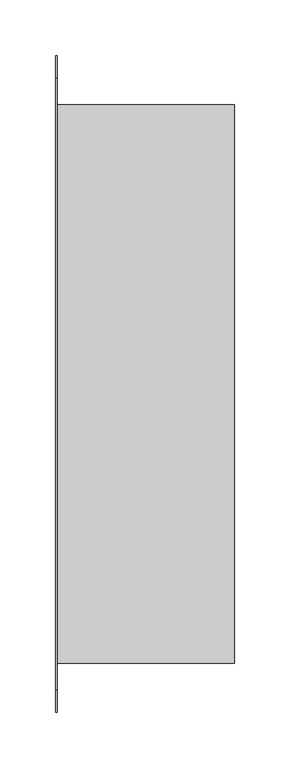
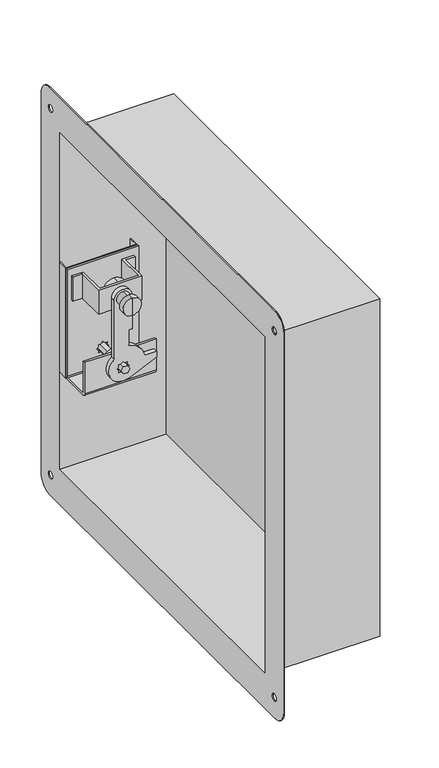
"""IFC4 building model written with IfcOpenShell, lengths in millimetres: damper geometry, СВ_КлапанПротивопожарный_КДМ-2М-3_НЗ_СтеновойПрямоугольный_СВОК : КДМ-2М_Привод ЭМ."""

from ifc_helpers import new_model, si_unit, frame, origin, place, context, project, spatial, polyline, circle_curve, outline, extrude, source, transform, mapped, element, save
from ifc_brep_helpers import plane_surface, cylinder_surface, revolved_surface, advanced_brep


def damper_a9b1c7ca(model_context):
    return source(origin(), model_context, "Body", "SolidModel", [
        extrude(outline(polyline([(-78.8298911, 248.8), (-78.8298911, 235.0), (18.8, 235.0), (18.8, 248.8), (20.0, 248.8), (20.0, 233.8), (-80.0298911, 233.8), (-80.0298911, 248.8), (-78.8298911, 248.8)])), frame((0.0, 0.0, -105.0), z_axis=(0.0, 0.0, 1.0), x_axis=(1.0, 0.0, 0.0)), (0.0, 0.0, 1.0), 162.5),
        advanced_brep(
        [(-30.0, 159.8, 40.8717586), (-30.0, 159.8, 15.1282414), (-30.0, 159.8, 28.0), (-30.0, 167.677025, 40.8717586), (-30.0, 167.677025, 15.1282414), (-30.0, 167.677025, 37.0972194), (-30.0, 167.677025, 18.9027806), (-30.0, 181.8, 37.0972194), (-30.0, 181.8, 18.9027806), (-30.0, 181.8, 28.0)],
        [
            (0, 1, circle_curve(frame((-30.0, 159.8, 28.0), z_axis=(0.0, -1.0, 0.0), x_axis=(0.0, 0.0, -1.0)), 12.8717586)),
            (1, 2),
            (2, 0),
            (1, 0, circle_curve(frame((-30.0, 159.8, 28.0), z_axis=(0.0, -1.0, 0.0), x_axis=(0.0, 0.0, -1.0)), 12.8717586)),
            (3, 4, circle_curve(frame((-30.0, 167.677025, 28.0), z_axis=(0.0, -1.0, 0.0), x_axis=(0.0, 0.0, -1.0)), 12.8717586)),
            (4, 1),
            (0, 3),
            (4, 3, circle_curve(frame((-30.0, 167.677025, 28.0), z_axis=(0.0, -1.0, 0.0), x_axis=(0.0, 0.0, -1.0)), 12.8717586)),
            (5, 6, circle_curve(frame((-30.0, 167.677025, 28.0), z_axis=(0.0, -1.0, 0.0), x_axis=(0.0, 0.0, -1.0)), 9.0972194)),
            (6, 4),
            (3, 5),
            (6, 5, circle_curve(frame((-30.0, 167.677025, 28.0), z_axis=(0.0, -1.0, 0.0), x_axis=(0.0, 0.0, -1.0)), 9.0972194)),
            (7, 8, circle_curve(frame((-30.0, 181.8, 28.0), z_axis=(0.0, -1.0, 0.0), x_axis=(0.0, 0.0, -1.0)), 9.0972194)),
            (8, 6),
            (5, 7),
            (8, 7, circle_curve(frame((-30.0, 181.8, 28.0), z_axis=(0.0, -1.0, 0.0), x_axis=(0.0, 0.0, -1.0)), 9.0972194)),
            (9, 8),
            (7, 9),
        ],
        [
            plane_surface(frame((-30.0, 159.8, 28.0), z_axis=(0.0, -1.0, 0.0), x_axis=(0.0, 0.0, -1.0))),
            cylinder_surface(frame((-30.0, 181.8, 28.0), z_axis=(0.0, 1.0, 0.0), x_axis=(0.0, 0.0, -1.0)), 12.8717586),
            plane_surface(frame((-30.0, 167.677025, 28.0), z_axis=(0.0, 1.0, 0.0), x_axis=(0.0, 0.0, -1.0))),
            cylinder_surface(frame((-30.0, 181.8, 28.0), z_axis=(0.0, 1.0, 0.0), x_axis=(0.0, 0.0, -1.0)), 9.0972194),
            plane_surface(frame((-30.0, 181.8, 28.0), z_axis=(0.0, 1.0, 0.0), x_axis=(0.0, 0.0, -1.0))),
        ],
        [
            (0, [[1, 2, 3]]),
            (0, [[4, -3, -2]]),
            (1, [[5, 6, -1, 7]]),
            (1, [[8, -7, -4, -6]]),
            (2, [[9, 10, -5, 11]]),
            (2, [[12, -11, -8, -10]]),
            (3, [[13, 14, -9, 15]]),
            (3, [[16, -15, -12, -14]]),
            (4, [[17, -13, 18]]),
            (4, [[-18, -16, -17]]),
        ],
    ),
        advanced_brep(
        [(-60.37371, 188.3367477, 45.900028), (-0.37371, 188.3367477, 45.900028), (-0.37371, 227.8, 45.900028), (13.1888336, 227.8, 45.900028), (13.1888336, 230.8, 45.900028), (-3.37371, 230.8, 45.900028), (-3.37371, 191.3367477, 45.900028), (-30.37371, 191.3367477, 45.900028), (-57.37371, 191.3367477, 45.900028), (-57.37371, 230.8, 45.900028), (-73.9362537, 230.8, 45.900028), (-73.9362537, 227.8, 45.900028), (-60.37371, 227.8, 45.900028), (-60.37371, 188.3367477, 10.2906263), (-60.37371, 227.8, 10.2906263), (-73.9362537, 227.8, 10.2906263), (-73.9362537, 230.8, 10.2906263), (-57.37371, 230.8, 10.2906263), (-57.37371, 191.3367477, 10.2906263), (-30.37371, 191.3367477, 10.2906263), (-3.37371, 191.3367477, 10.2906263), (-3.37371, 230.8, 10.2906263), (13.1888336, 230.8, 10.2906263), (13.1888336, 227.8, 10.2906263), (-0.37371, 227.8, 10.2906263), (-0.37371, 188.3367477, 10.2906263), (-17.5531764, 188.3367477, 10.2906263), (-30.37371, 188.3367477, 10.2906263), (-42.4468236, 188.3367477, 10.2906263), (-30.37371, 191.3367477, 12.0153496), (-30.0, 191.3367477, 12.0109817), (-30.0, 191.3367477, 43.9890183), (-30.37371, 191.3367477, 43.9846504), (-42.4468236, 181.8, 28.0), (-42.4468236, 181.8, -59.345078), (-21.6781206, 181.8, -93.1864324), (16.7904973, 181.8, -75.5836838), (16.7904973, 181.8, -67.6282215), (0.2857987, 181.8, -67.6282215), (-22.3466574, 181.8, -44.7841255), (-22.3466574, 181.8, -22.0), (-17.5531764, 181.8, -22.0), (-17.5531764, 181.8, 28.0), (-38.4852814, 181.8, -75.0), (-35.9954463, 181.8, -72.5101649), (-35.9954463, 181.8, -69.0045537), (-32.4898351, 181.8, -69.0045537), (-30.0, 181.8, -66.5147186), (-27.5101649, 181.8, -69.0045537), (-24.0045537, 181.8, -69.0045537), (-24.0045537, 181.8, -72.5101649), (-21.5147186, 181.8, -75.0), (-24.0045537, 181.8, -77.4898351), (-24.0045537, 181.8, -80.9954463), (-27.5101649, 181.8, -80.9954463), (-30.0, 181.8, -83.4852814), (-32.4898351, 181.8, -80.9954463), (-35.9954463, 181.8, -80.9954463), (-35.9954463, 181.8, -77.4898351), (-17.5531764, 188.3367477, -22.0), (-22.3466574, 188.3367477, -22.0), (-22.3466574, 188.3367477, -44.7841255), (-6.6455014, 188.3367477, -54.3568384), (-42.4468236, 188.3367477, -54.3568384), (-17.5531764, 188.3367477, 28.0), (-42.4468236, 188.3367477, 28.0), (-42.4468236, 188.3367477, -59.345078), (-21.6781206, 188.3367477, -93.1864324), (16.7904973, 188.3367477, -75.5836838), (16.7904973, 188.3367477, -67.6282215), (0.2857987, 188.3367477, -67.6282215), (-30.0, 203.8, -90.9890183), (-30.0, 203.8, -59.0109817), (-35.9954463, 203.8, -72.5101649), (-38.4852814, 203.8, -75.0), (-35.9954463, 203.8, -77.4898351), (-35.9954463, 203.8, -80.9954463), (-32.4898351, 203.8, -80.9954463), (-30.0, 203.8, -83.4852814), (-27.5101649, 203.8, -80.9954463), (-24.0045537, 203.8, -80.9954463), (-24.0045537, 203.8, -77.4898351), (-21.5147186, 203.8, -75.0), (-24.0045537, 203.8, -72.5101649), (-24.0045537, 203.8, -69.0045537), (-27.5101649, 203.8, -69.0045537), (-30.0, 203.8, -66.5147186), (-32.4898351, 203.8, -69.0045537), (-35.9954463, 203.8, -69.0045537), (-30.0, 203.8, 12.0109817), (-30.0, 203.8, 43.9890183), (-30.0, 191.3367477, -59.0109817), (-30.0, 191.3367477, -90.9890183), (20.0, 233.8, -100.5), (20.0, 233.8, 57.5), (20.0, 230.8, 57.5), (20.0, 230.8, -100.5), (20.0, 229.3, -102.0), (20.0, 192.8662593, -102.0), (20.0, 191.3367477, -100.4704884), (20.0, 191.3367477, -54.3568384), (20.0, 188.3367477, -54.3568384), (20.0, 188.3367477, -100.4704884), (20.0, 192.8662593, -105.0), (20.0, 229.3, -105.0), (-80.0, 233.8, -100.5), (-80.0, 229.3, -105.0), (-80.0, 192.8662593, -105.0), (-80.0, 188.3367477, -100.4704884), (-80.0, 188.3367477, -54.3568384), (-80.0, 191.3367477, -54.3568384), (-80.0, 191.3367477, -100.4704884), (-80.0, 192.8662593, -102.0), (-80.0, 229.3, -102.0), (-80.0, 230.8, -100.5), (-80.0, 230.8, 57.5), (-80.0, 233.8, 57.5), (-35.9954463, 233.8, -72.5101649), (-38.4852814, 233.8, -75.0), (-35.9954463, 233.8, -77.4898351), (-35.9954463, 233.8, -80.9954463), (-32.4898351, 233.8, -80.9954463), (-30.0, 233.8, -83.4852814), (-27.5101649, 233.8, -80.9954463), (-24.0045537, 233.8, -80.9954463), (-24.0045537, 233.8, -77.4898351), (-21.5147186, 233.8, -75.0), (-24.0045537, 233.8, -72.5101649), (-24.0045537, 233.8, -69.0045537), (-27.5101649, 233.8, -69.0045537), (-30.0, 233.8, -66.5147186), (-32.4898351, 233.8, -69.0045537), (-35.9954463, 233.8, -69.0045537), (-38.4852814, 230.8, -75.0), (-35.9954463, 230.8, -72.5101649), (-35.9954463, 230.8, -69.0045537), (-32.4898351, 230.8, -69.0045537), (-30.0, 230.8, -66.5147186), (-27.5101649, 230.8, -69.0045537), (-24.0045537, 230.8, -69.0045537), (-24.0045537, 230.8, -72.5101649), (-21.5147186, 230.8, -75.0), (-24.0045537, 230.8, -77.4898351), (-24.0045537, 230.8, -80.9954463), (-27.5101649, 230.8, -80.9954463), (-30.0, 230.8, -83.4852814), (-32.4898351, 230.8, -80.9954463), (-35.9954463, 230.8, -80.9954463), (-35.9954463, 230.8, -77.4898351)],
        [
            (0, 1),
            (1, 2),
            (2, 3),
            (3, 4),
            (4, 5),
            (5, 6),
            (6, 7),
            (7, 8),
            (8, 9),
            (9, 10),
            (10, 11),
            (11, 12),
            (12, 0),
            (13, 14),
            (14, 15),
            (15, 16),
            (16, 17),
            (17, 18),
            (18, 19),
            (19, 20),
            (20, 21),
            (21, 22),
            (22, 23),
            (23, 24),
            (24, 25),
            (25, 26),
            (26, 27),
            (27, 28),
            (28, 13),
            (1, 25),
            (24, 2),
            (23, 3),
            (22, 4),
            (5, 21),
            (20, 6),
            (19, 29),
            (29, 30, circle_curve(frame((-30.0, 191.3367477, 28.0), z_axis=(0.0, -1.0, 0.0), x_axis=(0.0, 0.0, 1.0)), 15.9890183)),
            (30, 31, circle_curve(frame((-30.0, 191.3367477, 28.0), z_axis=(0.0, -1.0, 0.0), x_axis=(0.0, 0.0, 1.0)), 15.9890183)),
            (31, 32, circle_curve(frame((-30.0, 191.3367477, 28.0), z_axis=(0.0, -1.0, 0.0), x_axis=(0.0, 0.0, 1.0)), 15.9890183)),
            (32, 7),
            (32, 29, circle_curve(frame((-30.0, 191.3367477, 28.0), z_axis=(0.0, -1.0, 0.0), x_axis=(0.0, 0.0, 1.0)), 15.9890183)),
            (18, 8),
            (17, 9),
            (10, 16),
            (15, 11),
            (14, 12),
            (13, 0),
            (33, 34),
            (34, 35, circle_curve(frame((-30.0, 181.8, -75.0), z_axis=(0.0, -1.0, 0.0), x_axis=(0.0, 0.0, 1.0)), 20.0)),
            (35, 36),
            (36, 37),
            (37, 38),
            (38, 39, circle_curve(frame((-30.0, 181.8, -75.0), z_axis=(0.0, -1.0, 0.0), x_axis=(0.0, 0.0, 1.0)), 31.1700613)),
            (39, 40),
            (40, 41),
            (41, 42),
            (42, 33, circle_curve(frame((-30.0, 181.8, 28.0), z_axis=(0.0, -1.0, 0.0), x_axis=(0.0, 0.0, 1.0)), 12.4468236)),
            (43, 44),
            (44, 45),
            (45, 46),
            (46, 47),
            (47, 48),
            (48, 49),
            (49, 50),
            (50, 51),
            (51, 52),
            (52, 53),
            (53, 54),
            (54, 55),
            (55, 56),
            (56, 57),
            (57, 58),
            (58, 43),
            (59, 60),
            (60, 61),
            (61, 62, circle_curve(frame((-30.0, 188.3367477, -75.0), z_axis=(0.0, 1.0, 0.0), x_axis=(0.0, 0.0, 1.0)), 31.1700613)),
            (62, 63),
            (63, 28),
            (26, 59),
            (42, 64),
            (64, 65, circle_curve(frame((-30.0, 188.3367477, 28.0), z_axis=(0.0, -1.0, 0.0), x_axis=(0.0, 0.0, 1.0)), 12.4468236)),
            (65, 33),
            (34, 66),
            (66, 67, circle_curve(frame((-30.0, 188.3367477, -75.0), z_axis=(0.0, -1.0, 0.0), x_axis=(0.0, 0.0, 1.0)), 20.0)),
            (67, 35),
            (65, 28),
            (63, 66),
            (36, 68),
            (68, 69),
            (69, 37),
            (69, 70),
            (70, 38),
            (70, 62, circle_curve(frame((-30.0, 188.3367477, -75.0), z_axis=(0.0, -1.0, 0.0), x_axis=(0.0, 0.0, 1.0)), 31.1700613)),
            (61, 39),
            (60, 40),
            (59, 41),
            (26, 64),
            (71, 72, circle_curve(frame((-30.0, 203.8, -75.0), z_axis=(0.0, 1.0, 0.0), x_axis=(0.0, 0.0, 1.0)), 15.9890183)),
            (72, 71, circle_curve(frame((-30.0, 203.8, -75.0), z_axis=(0.0, 1.0, 0.0), x_axis=(0.0, 0.0, 1.0)), 15.9890183)),
            (73, 74),
            (74, 75),
            (75, 76),
            (76, 77),
            (77, 78),
            (78, 79),
            (79, 80),
            (80, 81),
            (81, 82),
            (82, 83),
            (83, 84),
            (84, 85),
            (85, 86),
            (86, 87),
            (87, 88),
            (88, 73),
            (89, 90, circle_curve(frame((-30.0, 203.8, 28.0), z_axis=(0.0, 1.0, 0.0), x_axis=(0.0, 0.0, 1.0)), 15.9890183)),
            (90, 89, circle_curve(frame((-30.0, 203.8, 28.0), z_axis=(0.0, 1.0, 0.0), x_axis=(0.0, 0.0, 1.0)), 15.9890183)),
            (72, 91),
            (91, 92, circle_curve(frame((-30.0, 191.3367477, -75.0), z_axis=(0.0, 1.0, 0.0), x_axis=(0.0, 0.0, 1.0)), 15.9890183)),
            (92, 71),
            (92, 91, circle_curve(frame((-30.0, 191.3367477, -75.0), z_axis=(0.0, 1.0, 0.0), x_axis=(0.0, 0.0, 1.0)), 15.9890183)),
            (90, 31),
            (30, 89),
            (93, 94),
            (94, 95),
            (95, 96),
            (96, 97, circle_curve(frame((20.0, 229.3, -100.5), z_axis=(-1.0, 0.0, 0.0), x_axis=(0.0, 0.0, 1.0)), 1.5)),
            (97, 98),
            (98, 99, circle_curve(frame((20.0, 192.8662593, -100.4704884), z_axis=(-1.0, 0.0, 0.0), x_axis=(0.0, 0.0, 1.0)), 1.5295116)),
            (99, 100),
            (100, 101),
            (101, 102),
            (102, 103, circle_curve(frame((20.0, 192.8662593, -100.4704884), z_axis=(1.0, 0.0, 0.0), x_axis=(0.0, 0.0, 1.0)), 4.5295116)),
            (103, 104),
            (104, 93, circle_curve(frame((20.0, 229.3, -100.5), z_axis=(1.0, 0.0, 0.0), x_axis=(0.0, 0.0, 1.0)), 4.5)),
            (105, 106, circle_curve(frame((-80.0, 229.3, -100.5), z_axis=(-1.0, 0.0, 0.0), x_axis=(0.0, 0.0, 1.0)), 4.5)),
            (106, 107),
            (107, 108, circle_curve(frame((-80.0, 192.8662593, -100.4704884), z_axis=(-1.0, 0.0, 0.0), x_axis=(0.0, 0.0, 1.0)), 4.5295116)),
            (108, 109),
            (109, 110),
            (110, 111),
            (111, 112, circle_curve(frame((-80.0, 192.8662593, -100.4704884), z_axis=(1.0, 0.0, 0.0), x_axis=(0.0, 0.0, 1.0)), 1.5295116)),
            (112, 113),
            (113, 114, circle_curve(frame((-80.0, 229.3, -100.5), z_axis=(1.0, 0.0, 0.0), x_axis=(0.0, 0.0, 1.0)), 1.5)),
            (114, 115),
            (115, 116),
            (116, 105),
            (93, 105),
            (116, 94),
            (117, 118),
            (118, 119),
            (119, 120),
            (120, 121),
            (121, 122),
            (122, 123),
            (123, 124),
            (124, 125),
            (125, 126),
            (126, 127),
            (127, 128),
            (128, 129),
            (129, 130),
            (130, 131),
            (131, 132),
            (132, 117),
            (115, 95),
            (114, 96),
            (133, 134),
            (134, 135),
            (135, 136),
            (136, 137),
            (137, 138),
            (138, 139),
            (139, 140),
            (140, 141),
            (141, 142),
            (142, 143),
            (143, 144),
            (144, 145),
            (145, 146),
            (146, 147),
            (147, 148),
            (148, 133),
            (113, 97),
            (112, 98),
            (111, 99),
            (110, 100),
            (109, 63),
            (62, 101),
            (68, 67),
            (108, 102),
            (107, 103),
            (106, 104),
            (73, 44),
            (43, 74),
            (117, 134),
            (133, 118),
            (58, 75),
            (148, 119),
            (57, 76),
            (147, 120),
            (56, 77),
            (146, 121),
            (55, 78),
            (145, 122),
            (54, 79),
            (144, 123),
            (53, 80),
            (143, 124),
            (52, 81),
            (142, 125),
            (51, 82),
            (141, 126),
            (50, 83),
            (140, 127),
            (49, 84),
            (139, 128),
            (48, 85),
            (138, 129),
            (47, 86),
            (137, 130),
            (46, 87),
            (136, 131),
            (45, 88),
            (135, 132),
        ],
        [
            plane_surface(frame((-60.37371, 188.3367477, 45.900028), z_axis=(0.0, 0.0, 1.0), x_axis=(1.0, 0.0, 0.0))),
            plane_surface(frame((-60.37371, 188.3367477, 10.2906263), z_axis=(0.0, 0.0, -1.0), x_axis=(-1.0, 0.0, 0.0))),
            plane_surface(frame((-0.37371, 188.3367477, 45.900028), z_axis=(1.0, 0.0, 0.0), x_axis=(0.0, 0.0, -1.0))),
            plane_surface(frame((-0.37371, 227.8, 45.900028), z_axis=(0.0, -1.0, 0.0), x_axis=(0.0, 0.0, -1.0))),
            plane_surface(frame((13.1888336, 227.8, 45.900028), z_axis=(1.0, 0.0, 0.0), x_axis=(0.0, 0.0, -1.0))),
            plane_surface(frame((-3.37371, 230.8, 45.900028), z_axis=(-1.0, 0.0, 0.0), x_axis=(0.0, 0.0, -1.0))),
            plane_surface(frame((-3.37371, 191.3367477, 45.900028), z_axis=(0.0, 1.0, 0.0), x_axis=(0.0, 0.0, -1.0))),
            plane_surface(frame((-30.37371, 191.3367477, 45.900028), z_axis=(0.0, 1.0, 0.0), x_axis=(0.0, 0.0, -1.0))),
            plane_surface(frame((-57.37371, 191.3367477, 45.900028), z_axis=(1.0, 0.0, 0.0), x_axis=(0.0, 0.0, -1.0))),
            plane_surface(frame((-73.9362537, 230.8, 45.900028), z_axis=(-1.0, 0.0, 0.0), x_axis=(0.0, 0.0, -1.0))),
            plane_surface(frame((-73.9362537, 227.8, 45.900028), z_axis=(0.0, -1.0, 0.0), x_axis=(0.0, 0.0, -1.0))),
            plane_surface(frame((-60.37371, 227.8, 45.900028), z_axis=(-1.0, 0.0, 0.0), x_axis=(0.0, 0.0, -1.0))),
            plane_surface(frame((-42.4468236, 181.8, 28.0), z_axis=(0.0, -1.0, 0.0), x_axis=(0.0, 0.0, -1.0))),
            plane_surface(frame((-42.4468236, 188.3367477, 28.0), z_axis=(0.0, 1.0, 0.0), x_axis=(0.0, 0.0, 1.0))),
            cylinder_surface(frame((-30.0, 188.3367477, 28.0), z_axis=(0.0, -1.0, 0.0), x_axis=(0.0, 0.0, 1.0)), 12.4468236),
            cylinder_surface(frame((-30.0, 188.3367477, -75.0), z_axis=(0.0, -1.0, 0.0), x_axis=(0.0, 0.0, 1.0)), 20.0),
            plane_surface(frame((-42.4468236, 181.8, 28.0), z_axis=(-1.0, 0.0, 0.0), x_axis=(0.0, 1.0, 0.0))),
            plane_surface(frame((16.7904973, 181.8, -75.5836838), z_axis=(1.0, 0.0, 0.0), x_axis=(0.0, 1.0, 0.0))),
            plane_surface(frame((16.7904973, 181.8, -67.6282215), z_axis=(0.0, 0.0, 1.0), x_axis=(0.0, 1.0, 0.0))),
            cylinder_surface(frame((-30.0, 188.3367477, -75.0), z_axis=(0.0, -1.0, 0.0), x_axis=(0.0, 0.0, 1.0)), 31.1700613),
            plane_surface(frame((-22.3466574, 181.8, -44.7841255), z_axis=(1.0, 0.0, 0.0), x_axis=(0.0, 1.0, 0.0))),
            plane_surface(frame((-22.3466574, 181.8, -22.0), z_axis=(0.0, 0.0, -1.0), x_axis=(0.0, 1.0, 0.0))),
            plane_surface(frame((-17.5531764, 181.8, -22.0), z_axis=(1.0, 0.0, 0.0), x_axis=(0.0, 1.0, 0.0))),
            plane_surface(frame((-30.0, 188.3367477, -59.0109817), z_axis=(0.0, -1.0, 0.0), x_axis=(-1.0, 0.0, 0.0))),
            plane_surface(frame((-30.0, 203.8, -59.0109817), z_axis=(0.0, 1.0, 0.0), x_axis=(1.0, 0.0, 0.0))),
            cylinder_surface(frame((-30.0, 203.8, -75.0), z_axis=(0.0, -1.0, 0.0), x_axis=(0.0, 0.0, 1.0)), 15.9890183),
            cylinder_surface(frame((-30.0, 248.8, 28.0), z_axis=(0.0, -1.0, 0.0), x_axis=(0.0, 0.0, 1.0)), 15.9890183),
            plane_surface(frame((20.0, 233.8, 57.5), z_axis=(1.0, 0.0, 0.0), x_axis=(0.0, 0.0, 1.0))),
            plane_surface(frame((-80.0, 233.8, 57.5), z_axis=(-1.0, 0.0, 0.0), x_axis=(0.0, 0.0, -1.0))),
            plane_surface(frame((20.0, 233.8, -100.5), z_axis=(0.0, 1.0, 0.0), x_axis=(-1.0, 0.0, 0.0))),
            plane_surface(frame((20.0, 233.8, 57.5), z_axis=(0.0, 0.0, 1.0), x_axis=(-1.0, 0.0, 0.0))),
            plane_surface(frame((20.0, 230.8, 57.5), z_axis=(0.0, -1.0, 0.0), x_axis=(-1.0, 0.0, 0.0))),
            revolved_surface(polyline([(-80.0, 229.3, -99.0), (20.0, 229.3, -99.0)]), (-80.0, 229.3, -100.5), (-1.0, 0.0, 0.0)),
            plane_surface(frame((20.0, 229.3, -102.0), z_axis=(0.0, 0.0, 1.0), x_axis=(-1.0, 0.0, 0.0))),
            revolved_surface(polyline([(-80.0, 192.8662593, -98.94097679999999), (20.0, 192.8662593, -98.94097679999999)]), (-80.0, 192.8662593, -100.4704884), (-1.0, 0.0, 0.0)),
            plane_surface(frame((20.0, 191.3367477, -100.4704884), z_axis=(0.0, 1.0, 0.0), x_axis=(-1.0, 0.0, 0.0))),
            plane_surface(frame((20.0, 191.3367477, -54.3568384), z_axis=(0.0, 0.0, 1.0), x_axis=(-1.0, 0.0, 0.0))),
            plane_surface(frame((20.0, 188.3367477, -54.3568384), z_axis=(0.0, -1.0, 0.0), x_axis=(-1.0, 0.0, 0.0))),
            cylinder_surface(frame((-80.0, 192.8662593, -100.4704884), z_axis=(1.0, 0.0, 0.0), x_axis=(0.0, 0.0, 1.0)), 4.5295116),
            plane_surface(frame((20.0, 192.8662593, -105.0), z_axis=(0.0, 0.0, -1.0), x_axis=(-1.0, 0.0, 0.0))),
            cylinder_surface(frame((-80.0, 229.3, -100.5), z_axis=(1.0, 0.0, 0.0), x_axis=(0.0, 0.0, 1.0)), 4.5),
            plane_surface(frame((-21.6781206, 181.8, -93.1864324), z_axis=(0.41609396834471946, 0.0, -0.909321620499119), x_axis=(0.0, 1.0, 0.0))),
            plane_surface(frame((-35.9954463, 175.8, -72.5101649), z_axis=(0.7071067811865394, 0.0, -0.7071067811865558), x_axis=(0.0, 1.0, 0.0))),
            plane_surface(frame((-38.4852814, 175.8, -75.0), z_axis=(0.7071067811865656, 0.0, 0.7071067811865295), x_axis=(0.0, 1.0, 0.0))),
            plane_surface(frame((-35.9954463, 175.8, -77.4898351), z_axis=(1.0, 0.0, 0.0), x_axis=(0.0, 1.0, 0.0))),
            plane_surface(frame((-35.9954463, 175.8, -80.9954463), z_axis=(0.0, 0.0, 1.0), x_axis=(0.0, 1.0, 0.0))),
            plane_surface(frame((-32.4898351, 175.8, -80.9954463), z_axis=(0.707106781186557, 0.0, 0.707106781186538), x_axis=(0.0, 1.0, 0.0))),
            plane_surface(frame((-30.0, 175.8, -83.4852814), z_axis=(-0.7071067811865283, 0.0, 0.7071067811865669), x_axis=(0.0, 1.0, 0.0))),
            plane_surface(frame((-27.5101649, 175.8, -80.9954463), z_axis=(0.0, 0.0, 1.0), x_axis=(0.0, 1.0, 0.0))),
            plane_surface(frame((-24.0045537, 175.8, -80.9954463), z_axis=(-1.0, 0.0, 0.0), x_axis=(0.0, 1.0, 0.0))),
            plane_surface(frame((-24.0045537, 175.8, -77.4898351), z_axis=(-0.7071067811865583, 0.0, 0.7071067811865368), x_axis=(0.0, 1.0, 0.0))),
            plane_surface(frame((-21.5147186, 175.8, -75.0), z_axis=(-0.7071067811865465, 0.0, -0.7071067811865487), x_axis=(0.0, 1.0, 0.0))),
            plane_surface(frame((-24.0045537, 175.8, -72.5101649), z_axis=(-1.0, 0.0, 0.0), x_axis=(0.0, 1.0, 0.0))),
            plane_surface(frame((-24.0045537, 175.8, -69.0045537), z_axis=(0.0, 0.0, -1.0), x_axis=(0.0, 1.0, 0.0))),
            plane_surface(frame((-27.5101649, 175.8, -69.0045537), z_axis=(-0.7071067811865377, 0.0, -0.7071067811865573), x_axis=(0.0, 1.0, 0.0))),
            plane_surface(frame((-30.0, 175.8, -66.5147186), z_axis=(0.7071067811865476, 0.0, -0.7071067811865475), x_axis=(0.0, 1.0, 0.0))),
            plane_surface(frame((-32.4898351, 175.8, -69.0045537), z_axis=(0.0, 0.0, -1.0), x_axis=(0.0, 1.0, 0.0))),
            plane_surface(frame((-35.9954463, 175.8, -69.0045537), z_axis=(1.0, 0.0, 0.0), x_axis=(0.0, 1.0, 0.0))),
        ],
        [
            (0, [[1, 2, 3, 4, 5, 6, 7, 8, 9, 10, 11, 12, 13]]),
            (1, [[14, 15, 16, 17, 18, 19, 20, 21, 22, 23, 24, 25, 26, 27, 28, 29]]),
            (2, [[-2, 30, -25, 31]]),
            (3, [[-3, -31, -24, 32]]),
            (4, [[-4, -32, -23, 33]]),
            (5, [[-6, 34, -21, 35]]),
            (6, [[-7, -35, -20, 36, 37, 38, 39, 40]]),
            (7, [[-8, -40, 41, -36, -19, 42]]),
            (8, [[-9, -42, -18, 43]]),
            (9, [[-11, 44, -16, 45]]),
            (10, [[-12, -45, -15, 46]]),
            (11, [[-13, -46, -14, 47]]),
            (12, [[48, 49, 50, 51, 52, 53, 54, 55, 56, 57], [58, 59, 60, 61, 62, 63, 64, 65, 66, 67, 68, 69, 70, 71, 72, 73]]),
            (13, [[74, 75, 76, 77, 78, -28, -27, 79]]),
            (14, [[-57, 80, 81, 82]]),
            (15, [[-49, 83, 84, 85]]),
            (16, [[-48, -82, 86, -78, 87, -83]]),
            (17, [[-51, 88, 89, 90]]),
            (18, [[-52, -90, 91, 92]]),
            (19, [[-53, -92, 93, -76, 94]]),
            (20, [[-54, -94, -75, 95]]),
            (21, [[-55, -95, -74, 96]]),
            (22, [[-56, -96, -79, 97, -80]]),
            (23, [[-26, -30, -1, -47, -29, -86, -81, -97]]),
            (24, [[98, 99], [100, 101, 102, 103, 104, 105, 106, 107, 108, 109, 110, 111, 112, 113, 114, 115]]),
            (24, [[116, 117]]),
            (25, [[-99, 118, 119, 120]]),
            (25, [[-98, -120, 121, -118]]),
            (26, [[-117, 122, -38, 123]]),
            (26, [[-116, -123, -37, -41, -39, -122]]),
            (27, [[124, 125, 126, 127, 128, 129, 130, 131, 132, 133, 134, 135]]),
            (28, [[136, 137, 138, 139, 140, 141, 142, 143, 144, 145, 146, 147]]),
            (29, [[-124, 148, -147, 149], [150, 151, 152, 153, 154, 155, 156, 157, 158, 159, 160, 161, 162, 163, 164, 165]]),
            (30, [[-125, -149, -146, 166]]),
            (31, [[-126, -166, -145, 167], [-5, -33, -22, -34], [-10, -43, -17, -44], [168, 169, 170, 171, 172, 173, 174, 175, 176, 177, 178, 179, 180, 181, 182, 183]]),
            (32, [[-127, -167, -144, 184]]),
            (33, [[-128, -184, -143, 185]]),
            (34, [[-129, -185, -142, 186]]),
            (35, [[-130, -186, -141, 187], [-119, -121]]),
            (36, [[-131, -187, -140, 188, -77, 189]]),
            (37, [[-132, -189, -93, -91, -89, 190, -84, -87, -188, -139, 191]]),
            (38, [[-133, -191, -138, 192]]),
            (39, [[-134, -192, -137, 193]]),
            (40, [[-135, -193, -136, -148]]),
            (41, [[-50, -85, -190, -88]]),
            (42, [[194, -58, 195, -100]]),
            (42, [[196, -168, 197, -150]]),
            (43, [[-195, -73, 198, -101]]),
            (43, [[-197, -183, 199, -151]]),
            (44, [[-198, -72, 200, -102]]),
            (44, [[-199, -182, 201, -152]]),
            (45, [[-200, -71, 202, -103]]),
            (45, [[-201, -181, 203, -153]]),
            (46, [[-202, -70, 204, -104]]),
            (46, [[-203, -180, 205, -154]]),
            (47, [[-204, -69, 206, -105]]),
            (47, [[-205, -179, 207, -155]]),
            (48, [[-206, -68, 208, -106]]),
            (48, [[-207, -178, 209, -156]]),
            (49, [[-208, -67, 210, -107]]),
            (49, [[-209, -177, 211, -157]]),
            (50, [[-210, -66, 212, -108]]),
            (50, [[-211, -176, 213, -158]]),
            (51, [[-212, -65, 214, -109]]),
            (51, [[-213, -175, 215, -159]]),
            (52, [[-214, -64, 216, -110]]),
            (52, [[-215, -174, 217, -160]]),
            (53, [[-216, -63, 218, -111]]),
            (53, [[-217, -173, 219, -161]]),
            (54, [[-218, -62, 220, -112]]),
            (54, [[-219, -172, 221, -162]]),
            (55, [[-220, -61, 222, -113]]),
            (55, [[-221, -171, 223, -163]]),
            (56, [[-222, -60, 224, -114]]),
            (56, [[-223, -170, 225, -164]]),
            (57, [[-194, -115, -224, -59]]),
            (57, [[-196, -165, -225, -169]]),
        ],
    ),
        extrude(outline(polyline([(-69.8167305, -27.0074379), (-69.8167305, -32.9925621), (-75.0, -35.9851241), (-80.1832695, -32.9925621), (-80.1832695, -27.0074379), (-75.0, -24.0148759), (-69.8167305, -27.0074379)])), frame((0.0, 175.8, 0.0), z_axis=(0.0, 1.0, 0.0), x_axis=(0.0, 0.0, 1.0)), (0.0, 0.0, 1.0), 73.0),
        extrude(outline(polyline([(68.8, -248.8), (68.8, 248.8), (70.0, 248.8), (70.0, -248.8), (68.8, -248.8)])), frame((0.0, 0.0, -248.8), z_axis=(0.0, 0.0, 1.0), x_axis=(1.0, 0.0, 0.0)), (0.0, 0.0, 1.0), 497.6),
        advanced_brep(
        [(-80.0, -273.8, 301.3), (-80.0, 273.8, 301.3), (-80.0, 293.8, 281.3), (-80.0, 293.8, -281.3), (-80.0, 273.8, -301.3), (-80.0, -273.8, -301.3), (-80.0, -293.8, -281.3), (-80.0, -293.8, 281.3), (-80.0, -248.8, 248.8), (-80.0, -248.8, -248.8), (-80.0, 248.8, -248.8), (-80.0, 248.8, 248.8), (-80.0, 266.3, 271.3), (-80.0, 276.3, 271.3), (-80.0, -276.3, 271.3), (-80.0, -266.3, 271.3), (-80.0, -276.3, -271.3), (-80.0, -266.3, -271.3), (-80.0, 266.3, -271.3), (-80.0, 276.3, -271.3), (-78.8, -273.8, 301.3), (-78.8, -293.8, 281.3), (-78.8, -293.8, -281.3), (-78.8, -273.8, -301.3), (-78.8, 273.8, -301.3), (-78.8, 293.8, -281.3), (-78.8, 293.8, 281.3), (-78.8, 273.8, 301.3), (-78.8, -250.0, 250.0), (-78.8, 250.0, 250.0), (-78.8, 250.0, -250.0), (-78.8, -250.0, -250.0), (-78.8, 276.3, 271.3), (-78.8, 266.3, 271.3), (-78.8, -266.3, 271.3), (-78.8, -276.3, 271.3), (-78.8, -266.3, -271.3), (-78.8, -276.3, -271.3), (-78.8, 276.3, -271.3), (-78.8, 266.3, -271.3), (80.0, 250.0, 250.0), (80.0, -250.0, 250.0), (80.0, -250.0, -250.0), (80.0, 250.0, -250.0), (80.0, -248.8, 248.8), (80.0, 248.8, 248.8), (80.0, 248.8, -248.8), (80.0, -248.8, -248.8)],
        [
            (0, 1),
            (1, 2, circle_curve(frame((-80.0, 273.8, 281.3), z_axis=(-1.0, 0.0, 0.0), x_axis=(0.0, 1.0, 0.0)), 20.0)),
            (2, 3),
            (3, 4, circle_curve(frame((-80.0, 273.8, -281.3), z_axis=(-1.0, 0.0, 0.0), x_axis=(0.0, 1.0, 0.0)), 20.0)),
            (4, 5),
            (5, 6, circle_curve(frame((-80.0, -273.8, -281.3), z_axis=(-1.0, 0.0, 0.0), x_axis=(0.0, 1.0, 0.0)), 20.0)),
            (6, 7),
            (7, 0, circle_curve(frame((-80.0, -273.8, 281.3), z_axis=(-1.0, 0.0, 0.0), x_axis=(0.0, 1.0, 0.0)), 20.0)),
            (8, 9),
            (9, 10),
            (10, 11),
            (11, 8),
            (12, 13, circle_curve(frame((-80.0, 271.3, 271.3), z_axis=(1.0, 0.0, 0.0), x_axis=(0.0, 1.0, 0.0)), 5.0)),
            (13, 12, circle_curve(frame((-80.0, 271.3, 271.3), z_axis=(1.0, 0.0, 0.0), x_axis=(0.0, 1.0, 0.0)), 5.0)),
            (14, 15, circle_curve(frame((-80.0, -271.3, 271.3), z_axis=(1.0, 0.0, 0.0), x_axis=(0.0, 1.0, 0.0)), 5.0)),
            (15, 14, circle_curve(frame((-80.0, -271.3, 271.3), z_axis=(1.0, 0.0, 0.0), x_axis=(0.0, 1.0, 0.0)), 5.0)),
            (16, 17, circle_curve(frame((-80.0, -271.3, -271.3), z_axis=(1.0, 0.0, 0.0), x_axis=(0.0, 1.0, 0.0)), 5.0)),
            (17, 16, circle_curve(frame((-80.0, -271.3, -271.3), z_axis=(1.0, 0.0, 0.0), x_axis=(0.0, 1.0, 0.0)), 5.0)),
            (18, 19, circle_curve(frame((-80.0, 271.3, -271.3), z_axis=(1.0, 0.0, 0.0), x_axis=(0.0, 1.0, 0.0)), 5.0)),
            (19, 18, circle_curve(frame((-80.0, 271.3, -271.3), z_axis=(1.0, 0.0, 0.0), x_axis=(0.0, 1.0, 0.0)), 5.0)),
            (20, 21, circle_curve(frame((-78.8, -273.8, 281.3), z_axis=(1.0, 0.0, 0.0), x_axis=(0.0, 1.0, 0.0)), 20.0)),
            (21, 22),
            (22, 23, circle_curve(frame((-78.8, -273.8, -281.3), z_axis=(1.0, 0.0, 0.0), x_axis=(0.0, 1.0, 0.0)), 20.0)),
            (23, 24),
            (24, 25, circle_curve(frame((-78.8, 273.8, -281.3), z_axis=(1.0, 0.0, 0.0), x_axis=(0.0, 1.0, 0.0)), 20.0)),
            (25, 26),
            (26, 27, circle_curve(frame((-78.8, 273.8, 281.3), z_axis=(1.0, 0.0, 0.0), x_axis=(0.0, 1.0, 0.0)), 20.0)),
            (27, 20),
            (28, 29),
            (29, 30),
            (30, 31),
            (31, 28),
            (32, 33, circle_curve(frame((-78.8, 271.3, 271.3), z_axis=(-1.0, 0.0, 0.0), x_axis=(0.0, 1.0, 0.0)), 5.0)),
            (33, 32, circle_curve(frame((-78.8, 271.3, 271.3), z_axis=(-1.0, 0.0, 0.0), x_axis=(0.0, 1.0, 0.0)), 5.0)),
            (34, 35, circle_curve(frame((-78.8, -271.3, 271.3), z_axis=(-1.0, 0.0, 0.0), x_axis=(0.0, 1.0, 0.0)), 5.0)),
            (35, 34, circle_curve(frame((-78.8, -271.3, 271.3), z_axis=(-1.0, 0.0, 0.0), x_axis=(0.0, 1.0, 0.0)), 5.0)),
            (36, 37, circle_curve(frame((-78.8, -271.3, -271.3), z_axis=(-1.0, 0.0, 0.0), x_axis=(0.0, 1.0, 0.0)), 5.0)),
            (37, 36, circle_curve(frame((-78.8, -271.3, -271.3), z_axis=(-1.0, 0.0, 0.0), x_axis=(0.0, 1.0, 0.0)), 5.0)),
            (38, 39, circle_curve(frame((-78.8, 271.3, -271.3), z_axis=(-1.0, 0.0, 0.0), x_axis=(0.0, 1.0, 0.0)), 5.0)),
            (39, 38, circle_curve(frame((-78.8, 271.3, -271.3), z_axis=(-1.0, 0.0, 0.0), x_axis=(0.0, 1.0, 0.0)), 5.0)),
            (40, 41),
            (41, 42),
            (42, 43),
            (43, 40),
            (44, 45),
            (45, 46),
            (46, 47),
            (47, 44),
            (40, 29),
            (28, 41),
            (31, 42),
            (30, 43),
            (11, 45),
            (44, 8),
            (10, 46),
            (9, 47),
            (6, 22),
            (21, 7),
            (4, 24),
            (23, 5),
            (2, 26),
            (25, 3),
            (0, 20),
            (27, 1),
            (32, 13),
            (12, 33),
            (34, 15),
            (14, 35),
            (36, 17),
            (16, 37),
            (38, 19),
            (18, 39),
        ],
        [
            plane_surface(frame((-80.0, 248.8, 248.8), z_axis=(-1.0, 0.0, 0.0), x_axis=(0.0, -1.0, 0.0))),
            plane_surface(frame((-78.8, 248.8, 248.8), z_axis=(1.0, 0.0, 0.0), x_axis=(0.0, 1.0, 0.0))),
            plane_surface(frame((80.0, 248.8, 248.8), z_axis=(1.0, 0.0, 0.0), x_axis=(0.0, 1.0, 0.0))),
            plane_surface(frame((80.0, 250.0, 250.0), z_axis=(0.0, 0.0, 1.0), x_axis=(-1.0, 0.0, 0.0))),
            plane_surface(frame((80.0, -250.0, 250.0), z_axis=(0.0, -1.0, 0.0), x_axis=(-1.0, 0.0, 0.0))),
            plane_surface(frame((80.0, -250.0, -250.0), z_axis=(0.0, 0.0, -1.0), x_axis=(-1.0, 0.0, 0.0))),
            plane_surface(frame((80.0, 250.0, -250.0), z_axis=(0.0, 1.0, 0.0), x_axis=(-1.0, 0.0, 0.0))),
            plane_surface(frame((-78.8, -248.8, 248.8), z_axis=(0.0, 0.0, -1.0), x_axis=(-1.0, 0.0, 0.0))),
            plane_surface(frame((-78.8, 248.8, 248.8), z_axis=(0.0, -1.0, 0.0), x_axis=(-1.0, 0.0, 0.0))),
            plane_surface(frame((-78.8, 248.8, -248.8), z_axis=(0.0, 0.0, 1.0), x_axis=(-1.0, 0.0, 0.0))),
            plane_surface(frame((-78.8, -248.8, -248.8), z_axis=(0.0, 1.0, 0.0), x_axis=(-1.0, 0.0, 0.0))),
            plane_surface(frame((-78.8, -293.8, 281.3), z_axis=(0.0, -1.0, 0.0), x_axis=(-1.0, 0.0, 0.0))),
            plane_surface(frame((-78.8, -273.8, -301.3), z_axis=(0.0, 0.0, -1.0), x_axis=(-1.0, 0.0, 0.0))),
            plane_surface(frame((-78.8, 293.8, -281.3), z_axis=(0.0, 1.0, 0.0), x_axis=(-1.0, 0.0, 0.0))),
            plane_surface(frame((-78.8, 273.8, 301.3), z_axis=(0.0, 0.0, 1.0), x_axis=(-1.0, 0.0, 0.0))),
            revolved_surface(polyline([(-78.8, 276.3, 271.3), (-80.0, 276.3, 271.3)]), (-80.0, 271.3, 271.3), (1.0, 0.0, 0.0)),
            revolved_surface(polyline([(-78.8, -266.3, 271.3), (-80.0, -266.3, 271.3)]), (-10.0, -271.3, 271.3), (1.0, 0.0, 0.0)),
            revolved_surface(polyline([(-78.8, -266.3, -271.3), (-80.0, -266.3, -271.3)]), (-10.0, -271.3, -271.3), (1.0, 0.0, 0.0)),
            revolved_surface(polyline([(-78.8, 276.3, -271.3), (-80.0, 276.3, -271.3)]), (-10.0, 271.3, -271.3), (1.0, 0.0, 0.0)),
            cylinder_surface(frame((0.0, -273.8, 281.3), z_axis=(1.0, 0.0, 0.0), x_axis=(0.0, 1.0, 0.0)), 20.0),
            cylinder_surface(frame((0.0, -273.8, -281.3), z_axis=(1.0, 0.0, 0.0), x_axis=(0.0, 1.0, 0.0)), 20.0),
            cylinder_surface(frame((0.0, 273.8, -281.3), z_axis=(1.0, 0.0, 0.0), x_axis=(0.0, 1.0, 0.0)), 20.0),
            cylinder_surface(frame((0.0, 273.8, 281.3), z_axis=(1.0, 0.0, 0.0), x_axis=(0.0, 1.0, 0.0)), 20.0),
        ],
        [
            (0, [[1, 2, 3, 4, 5, 6, 7, 8], [9, 10, 11, 12], [13, 14], [15, 16], [17, 18], [19, 20]]),
            (1, [[21, 22, 23, 24, 25, 26, 27, 28], [29, 30, 31, 32], [33, 34], [35, 36], [37, 38], [39, 40]]),
            (2, [[41, 42, 43, 44], [45, 46, 47, 48]]),
            (3, [[-41, 49, -29, 50]]),
            (4, [[-42, -50, -32, 51]]),
            (5, [[-43, -51, -31, 52]]),
            (6, [[-44, -52, -30, -49]]),
            (7, [[-12, 53, -45, 54]]),
            (8, [[-53, -11, 55, -46]]),
            (9, [[-55, -10, 56, -47]]),
            (10, [[-56, -9, -54, -48]]),
            (11, [[-7, 57, -22, 58]]),
            (12, [[-5, 59, -24, 60]]),
            (13, [[-3, 61, -26, 62]]),
            (14, [[-1, 63, -28, 64]]),
            (15, [[65, -13, 66, -33]]),
            (15, [[-65, -34, -66, -14]]),
            (16, [[67, -15, 68, -35]]),
            (16, [[-67, -36, -68, -16]]),
            (17, [[69, -17, 70, -37]]),
            (17, [[-69, -38, -70, -18]]),
            (18, [[71, -19, 72, -39]]),
            (18, [[-71, -40, -72, -20]]),
            (19, [[-8, -58, -21, -63]]),
            (20, [[-6, -60, -23, -57]]),
            (21, [[-4, -62, -25, -59]]),
            (22, [[-2, -64, -27, -61]]),
        ],
    ),
    ])


if __name__ == "__main__":
    model = new_model("IFC4")
    model_context = context("Model", 3, world=origin())
    ifc_project = project(units=[si_unit("LENGTHUNIT", "METRE", prefix="MILLI")], contexts=[model_context])
    site = spatial("IfcSite", under=ifc_project)
    building = spatial("IfcBuilding", under=site)
    placement = place(None, origin())
    damper_shape = damper_a9b1c7ca(model_context)
    element("IfcDamper", 1, ObjectType="СВ_КлапанПротивопожарный_КДМ-2М-3_НЗ_СтеновойПрямоугольный_СВОК : КДМ-2М_Привод ЭМ", at=placement, inside=building, context=model_context, shape_type="MappedRepresentation", body=[
        mapped(damper_shape, transform((0.0, 0.0, 0.0), x_axis=(1.0, 0.0, 0.0), y_axis=(0.0, 1.0, 0.0), z_axis=(0.0, 0.0, 1.0))),
    ])
    save(model, "model.ifc")
